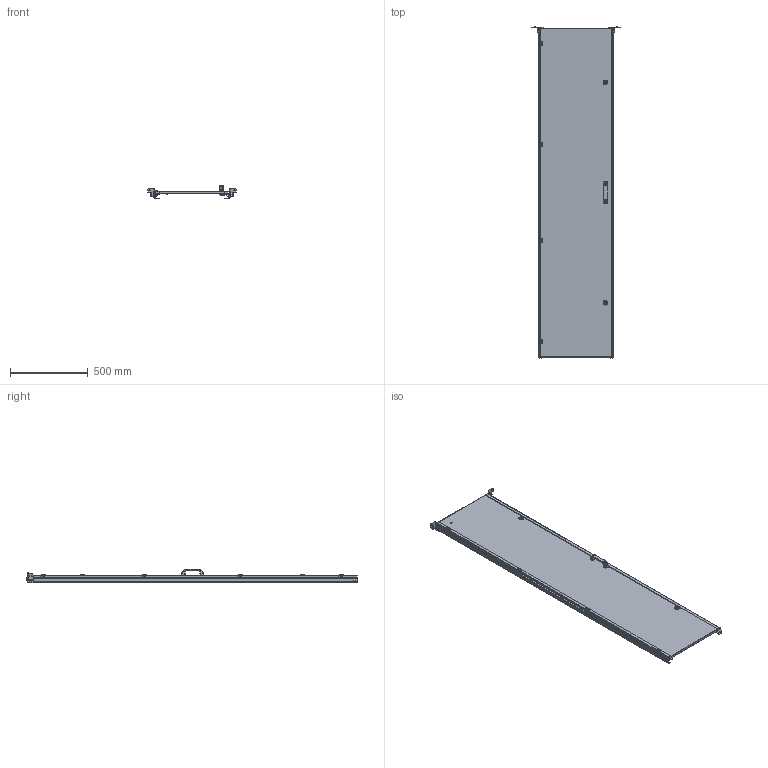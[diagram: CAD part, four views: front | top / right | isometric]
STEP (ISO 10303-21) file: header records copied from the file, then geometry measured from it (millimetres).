
FILE_DESCRIPTION (( 'STEP AP203' ), '1' );
FILE_NAME ('ID 220.60 ﾑﾁ ﾄ粢 粹澵.STEP', '2025-01-23T11:59:23', ( '' ), ( '' ), 'SwSTEP 2.0', 'SolidWorks 2022', '' );
FILE_SCHEMA (( 'CONFIG_CONTROL_DESIGN' ));
Length unit declared in the file: millimetre
Products named in the file (5): ID 220.60 СБ Дверь внутренняя; MP 01.001 Держатель монтажной панели верхний_По умолчаниюSM-FLAT-PATTERN; ID 180.80 Дверь внутренняя_ID 220.60 Дверь внутренняя; Винт специальный самонарезающий оц. 4,8x11_Винт специальный самонарезающий оц. 4,8x11; MP 01.001-01 Держатель монтажной панели верхний
Assembly tree (7 placements, depth 2):
  ID 220.60 СБ Дверь внутренняя
    ID 180.80 Дверь внутренняя_ID 220.60 Дверь внутренняя
    MP 01.001 Держатель монтажной панели верхний_По умолчаниюSM-FLAT-PATTERN
    MP 01.001-01 Держатель монтажной панели верхний
    Винт специальный самонарезающий оц. 4,8x11_Винт специальный самонарезающий оц. 4,8x11  x4
Bounding box: 570 x 2139.1 x 88.74 mm (x, y, z)
Volume: 2298824.3 mm3; surface area: 2931276 mm2
Topology: 40 solids, 40 shells, 1940 faces, 5026 edges, 3176 vertices
Faces by surface type: plane 886, cylinder 566, cone 262, bspline 108, sphere 88, torus 30
Entity records: 57874 total; most frequent: CARTESIAN_POINT 14827, ORIENTED_EDGE 9126, DIRECTION 8636, EDGE_CURVE 4563, AXIS2_PLACEMENT_3D 3153, VERTEX_POINT 2888, VECTOR 2330, LINE 2330
